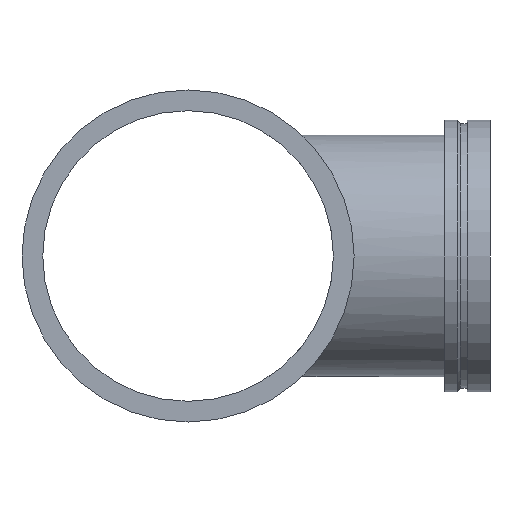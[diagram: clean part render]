
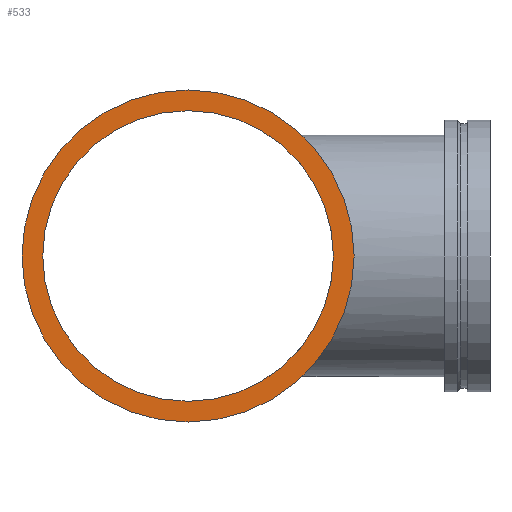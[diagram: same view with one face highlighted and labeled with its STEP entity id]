
A CAD part, left-side view. The second image highlights one B-rep face of the part: STEP entity #533.
In plain terms, the highlighted planar face has unit normal (-1, 0, 0).
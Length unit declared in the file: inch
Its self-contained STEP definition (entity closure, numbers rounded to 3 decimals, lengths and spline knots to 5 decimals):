
#58=FACE_BOUND('',#128,.T.);
#67=PLANE('',#626);
#92=FACE_OUTER_BOUND('',#127,.T.);
#127=EDGE_LOOP('',(#465,#466));
#128=EDGE_LOOP('',(#467,#468));
#151=CIRCLE('',#587,11.);
#152=CIRCLE('',#588,11.);
#175=CIRCLE('',#624,9.625);
#176=CIRCLE('',#625,9.625);
#239=VERTEX_POINT('',#1089);
#240=VERTEX_POINT('',#1091);
#263=VERTEX_POINT('',#1158);
#264=VERTEX_POINT('',#1160);
#299=EDGE_CURVE('',#239,#240,#151,.T.);
#300=EDGE_CURVE('',#240,#239,#152,.T.);
#331=EDGE_CURVE('',#264,#263,#175,.T.);
#332=EDGE_CURVE('',#263,#264,#176,.T.);
#465=ORIENTED_EDGE('',*,*,#300,.F.);
#466=ORIENTED_EDGE('',*,*,#299,.F.);
#467=ORIENTED_EDGE('',*,*,#331,.T.);
#468=ORIENTED_EDGE('',*,*,#332,.T.);
#533=ADVANCED_FACE('',(#92,#58),#67,.T.);
#587=AXIS2_PLACEMENT_3D('',#1092,#716,#717);
#588=AXIS2_PLACEMENT_3D('',#1093,#718,#719);
#624=AXIS2_PLACEMENT_3D('',#1161,#798,#799);
#625=AXIS2_PLACEMENT_3D('',#1162,#800,#801);
#626=AXIS2_PLACEMENT_3D('',#1163,#802,#803);
#716=DIRECTION('center_axis',(1.,0.,0.));
#717=DIRECTION('ref_axis',(0.,0.,1.));
#718=DIRECTION('center_axis',(1.,0.,0.));
#719=DIRECTION('ref_axis',(0.,0.,1.));
#798=DIRECTION('center_axis',(1.,0.,0.));
#799=DIRECTION('ref_axis',(0.,0.,1.));
#800=DIRECTION('center_axis',(1.,0.,0.));
#801=DIRECTION('ref_axis',(0.,0.,1.));
#802=DIRECTION('center_axis',(-1.,0.,0.));
#803=DIRECTION('ref_axis',(0.,0.,-1.));
#1089=CARTESIAN_POINT('',(-21.,11.,0.));
#1091=CARTESIAN_POINT('',(-21.,-11.,0.));
#1092=CARTESIAN_POINT('Origin',(-21.,0.,0.));
#1093=CARTESIAN_POINT('Origin',(-21.,0.,0.));
#1158=CARTESIAN_POINT('',(-21.,9.625,0.));
#1160=CARTESIAN_POINT('',(-21.,-9.625,0.));
#1161=CARTESIAN_POINT('Origin',(-21.,0.,0.));
#1162=CARTESIAN_POINT('Origin',(-21.,0.,0.));
#1163=CARTESIAN_POINT('Origin',(-21.,-11.,0.));
